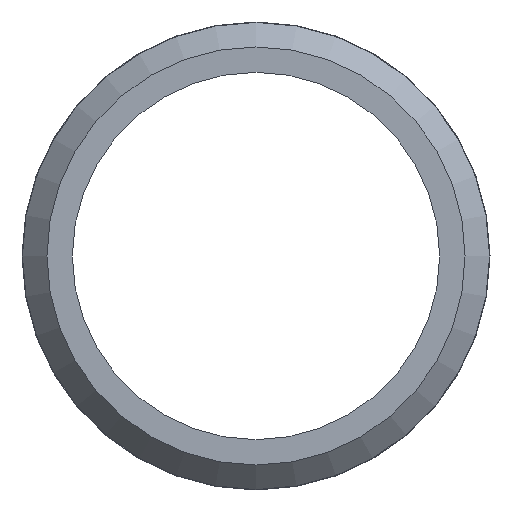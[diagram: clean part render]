
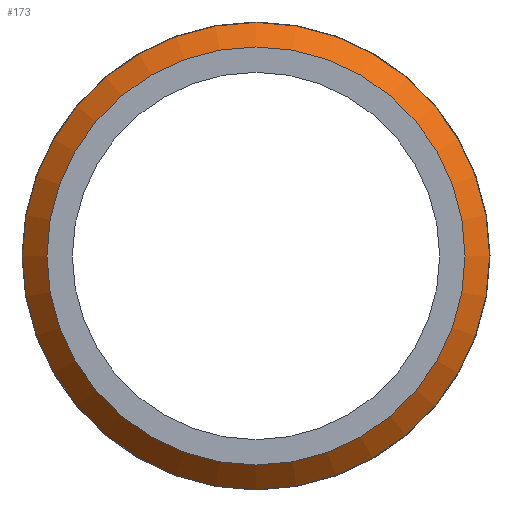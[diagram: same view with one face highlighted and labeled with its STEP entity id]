
A CAD part, front view. The second image highlights one B-rep face of the part: STEP entity #173.
In plain terms, the highlighted conical face has half-angle 45 degrees and reference radius 12.611 mm.
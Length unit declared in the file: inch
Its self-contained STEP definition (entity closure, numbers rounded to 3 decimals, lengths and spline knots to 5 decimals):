
#27=FACE_OUTER_BOUND('',#37,.T.);
#37=EDGE_LOOP('',(#123,#124,#125,#126,#127));
#51=LINE('',#294,#57);
#57=VECTOR('',#231,0.4965);
#63=CIRCLE('',#198,0.469);
#64=CIRCLE('',#199,0.524);
#65=CIRCLE('',#200,0.524);
#81=VERTEX_POINT('',#291);
#82=VERTEX_POINT('',#293);
#83=VERTEX_POINT('',#295);
#99=EDGE_CURVE('',#81,#81,#63,.T.);
#100=EDGE_CURVE('',#81,#82,#51,.T.);
#101=EDGE_CURVE('',#82,#83,#64,.T.);
#102=EDGE_CURVE('',#83,#82,#65,.T.);
#123=ORIENTED_EDGE('',*,*,#99,.T.);
#124=ORIENTED_EDGE('',*,*,#100,.T.);
#125=ORIENTED_EDGE('',*,*,#101,.T.);
#126=ORIENTED_EDGE('',*,*,#102,.T.);
#127=ORIENTED_EDGE('',*,*,#100,.F.);
#171=CONICAL_SURFACE('',#197,0.4965,0.785);
#173=ADVANCED_FACE('',(#27),#171,.T.);
#197=AXIS2_PLACEMENT_3D('',#290,#227,#228);
#198=AXIS2_PLACEMENT_3D('',#292,#229,#230);
#199=AXIS2_PLACEMENT_3D('',#296,#232,#233);
#200=AXIS2_PLACEMENT_3D('',#297,#234,#235);
#227=DIRECTION('center_axis',(0.,1.,0.));
#228=DIRECTION('ref_axis',(0.,0.,1.));
#229=DIRECTION('center_axis',(0.,1.,0.));
#230=DIRECTION('ref_axis',(0.,0.,1.));
#231=DIRECTION('',(0.,0.707,-0.707));
#232=DIRECTION('center_axis',(0.,-1.,0.));
#233=DIRECTION('ref_axis',(0.,0.,1.));
#234=DIRECTION('center_axis',(0.,-1.,0.));
#235=DIRECTION('ref_axis',(0.,0.,1.));
#290=CARTESIAN_POINT('Origin',(0.,0.0275,0.));
#291=CARTESIAN_POINT('',(0.,0.,-0.469));
#292=CARTESIAN_POINT('Origin',(0.,0.,0.));
#293=CARTESIAN_POINT('',(0.,0.055,-0.524));
#294=CARTESIAN_POINT('',(0.,0.0275,-0.4965));
#295=CARTESIAN_POINT('',(0.,0.055,0.524));
#296=CARTESIAN_POINT('Origin',(0.,0.055,0.));
#297=CARTESIAN_POINT('Origin',(0.,0.055,0.));
